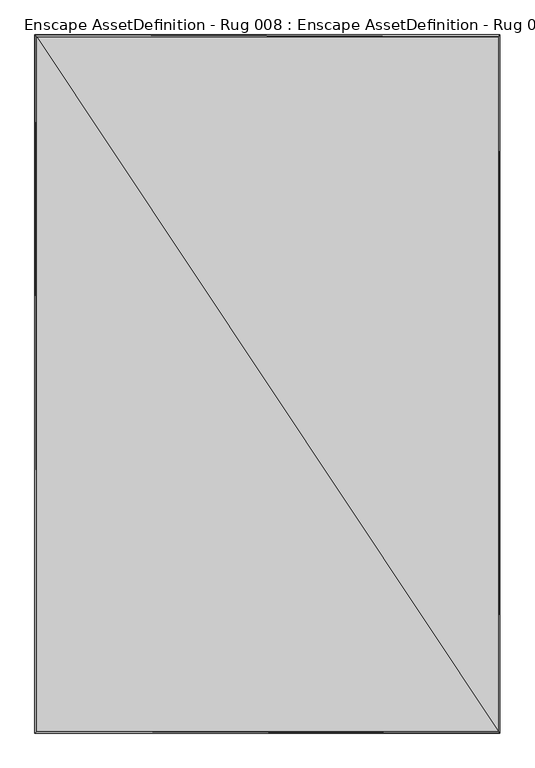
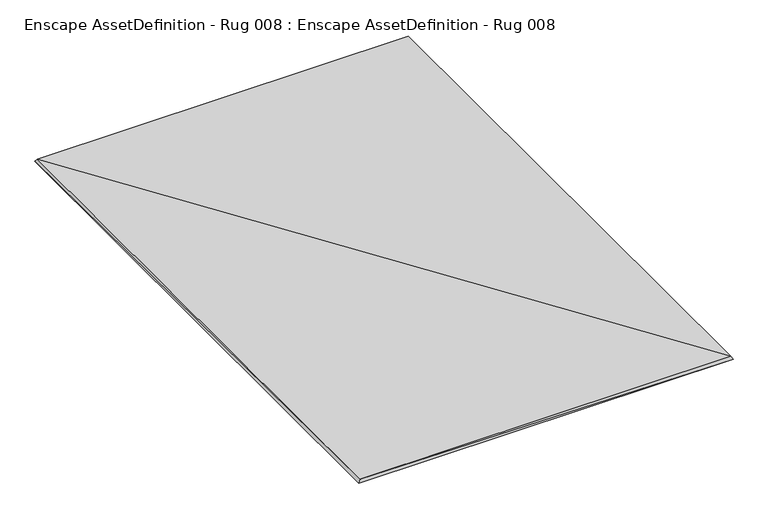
"""IFC4 building model written with IfcOpenShell, lengths in millimetres: geographic element geometry, Enscape AssetDefinition - Rug 008 : Enscape AssetDefinition - Rug 008."""

from ifc_helpers import new_model, si_unit, origin, place, context, project, spatial, faceted_brep, source, transform, mapped, element, save


def enscape_assetdefinition_rug_008_enscape_assetdefinition_rug_19040a96(model_context):
    return source(origin(), model_context, "Body", "Brep", [
        faceted_brep([(915.9228507, 1377.44422, 12.0), (915.9228507, -1377.44422, 11.9991137), (923.0428486, 1384.564273, 0.0004431), (-915.9228507, -1377.44422, 11.9991137), (-915.9228507, 1377.44422, 12.0), (-923.0428486, -1384.564273, -0.0004431), (-923.0428486, 1384.564273, 0.0004431), (923.0428486, -1384.564273, -0.0004431)], [[[0, 1, 2]], [[3, 1, 4]], [[5, 3, 6]], [[4, 0, 6]], [[1, 3, 7]], [[2, 7, 6]], [[2, 1, 7]], [[4, 1, 0]], [[6, 3, 4]], [[6, 0, 2]], [[7, 3, 5]], [[6, 7, 5]]]),
    ])


if __name__ == "__main__":
    model = new_model("IFC4")
    model_context = context("Model", 3, world=origin())
    ifc_project = project(units=[si_unit("LENGTHUNIT", "METRE", prefix="MILLI")], contexts=[model_context])
    site = spatial("IfcSite", under=ifc_project)
    building = spatial("IfcBuilding", under=site)
    placement = place(None, origin())
    enscape_assetdefinition_rug_008_enscape_assetdefinition_rug_shape = enscape_assetdefinition_rug_008_enscape_assetdefinition_rug_19040a96(model_context)
    element("IfcGeographicElement", 1, ObjectType="Enscape AssetDefinition - Rug 008 : Enscape AssetDefinition - Rug 008", at=placement, inside=building, context=model_context, shape_type="MappedRepresentation", body=[
        mapped(enscape_assetdefinition_rug_008_enscape_assetdefinition_rug_shape, transform((0.0, 0.0, 0.0), x_axis=(1.0, 0.0, 0.0), y_axis=(0.0, 1.0, 0.0), z_axis=(0.0, 0.0, 1.0))),
    ])
    save(model, "model.ifc")
